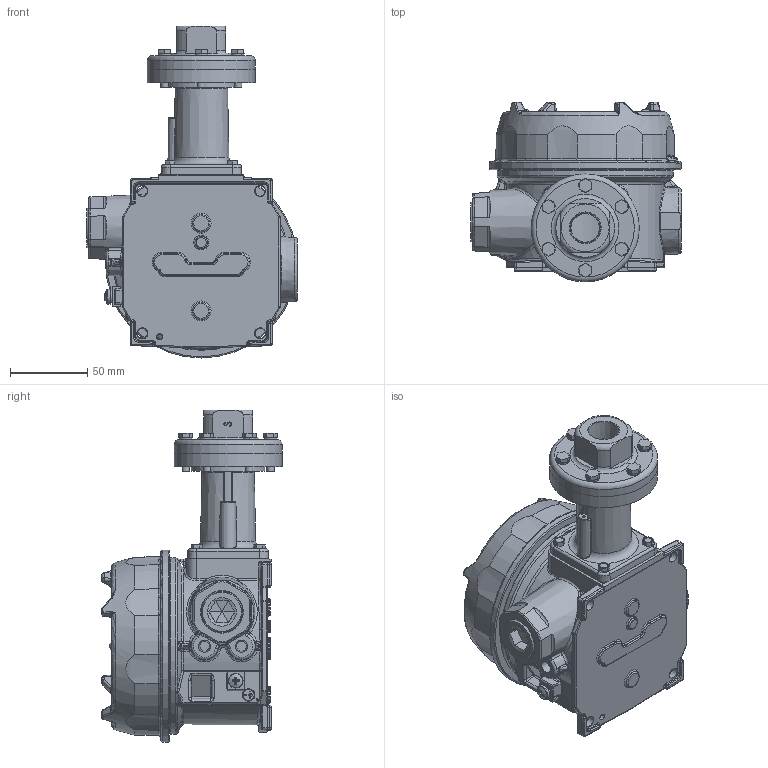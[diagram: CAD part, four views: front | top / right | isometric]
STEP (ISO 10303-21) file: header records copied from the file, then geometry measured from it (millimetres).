
FILE_DESCRIPTION (( 'STEP AP214' ), '1' );
FILE_NAME ('J120-183_186_483_486_V2.STEP', '2025-03-13T18:55:02', ( '' ), ( '' ), 'SwSTEP 2.0', 'SolidWorks 2023', '' );
FILE_SCHEMA (( 'AUTOMOTIVE_DESIGN' ));
Length unit declared in the file: inch
Products named in the file (1): J120-183_186_483_486_V2
Bounding box: 135.89 x 116.51 x 214.7 mm (x, y, z)
Surface area: 110707.6 mm2 (no closed solid volume)
Topology: 0 solids, 40 shells, 1070 faces, 2790 edges, 1690 vertices
Faces by surface type: plane 292, bspline 240, cylinder 223, torus 161, cone 123, sphere 31
Full cylindrical faces by diameter (mm): 1.575 x1, 3.22 x1, 4.775 x6, 5.556 x4, 7.366 x1, 7.874 x1, 9.5 x1, 18.491 x1, 23.812 x1, 47.625 x1, 69.85 x2, 87.312 x1, 114.046 x1, 123.952 x1
Entity records: 43398 total; most frequent: CARTESIAN_POINT 20219, ORIENTED_EDGE 4786, DIRECTION 4486, EDGE_CURVE 2643, AXIS2_PLACEMENT_3D 1838, VERTEX_POINT 1663, EDGE_LOOP 1231, FACE_OUTER_BOUND 1119
